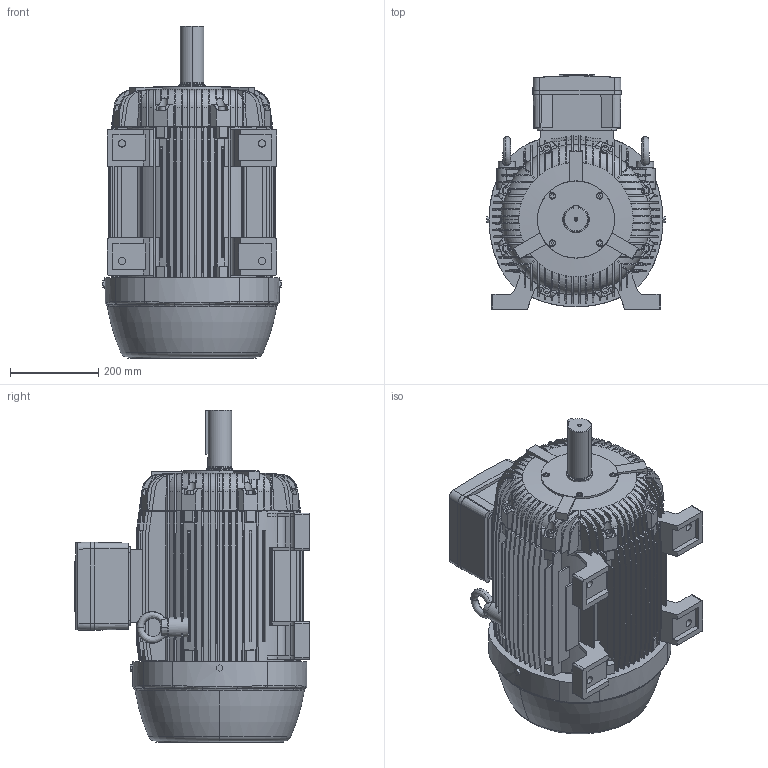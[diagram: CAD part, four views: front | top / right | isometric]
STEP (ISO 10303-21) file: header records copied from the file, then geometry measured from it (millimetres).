
FILE_DESCRIPTION (( 'STEP AP214' ), '1' );
FILE_NAME ('324T_TOP111.STEP', '2016-10-27T15:12:18', ( 'Support' ), ( 'WEG Equipamentos Elétricos S.A' ), 'SwSTEP 2.0', 'SolidWorks 2015', '' );
FILE_SCHEMA (( 'AUTOMOTIVE_DESIGN' ));
Length unit declared in the file: millimetre
Products named in the file (1): 324T_TOP111
Bounding box: 406 x 532.39 x 753.54 mm (x, y, z)
Volume: 37692057 mm3; surface area: 3141283.8 mm2
Topology: 11 solids, 12 shells, 1930 faces, 5337 edges, 3516 vertices
Faces by surface type: plane 1344, cylinder 237, cone 186, bspline 90, torus 71, sphere 2
Entity records: 101507 total; most frequent: CARTESIAN_POINT 32289, ORIENTED_EDGE 10666, DIRECTION 9071, EDGE_CURVE 5333, VERTEX_POINT 3515, LINE 3209, VECTOR 3209, AXIS2_PLACEMENT_3D 2931
